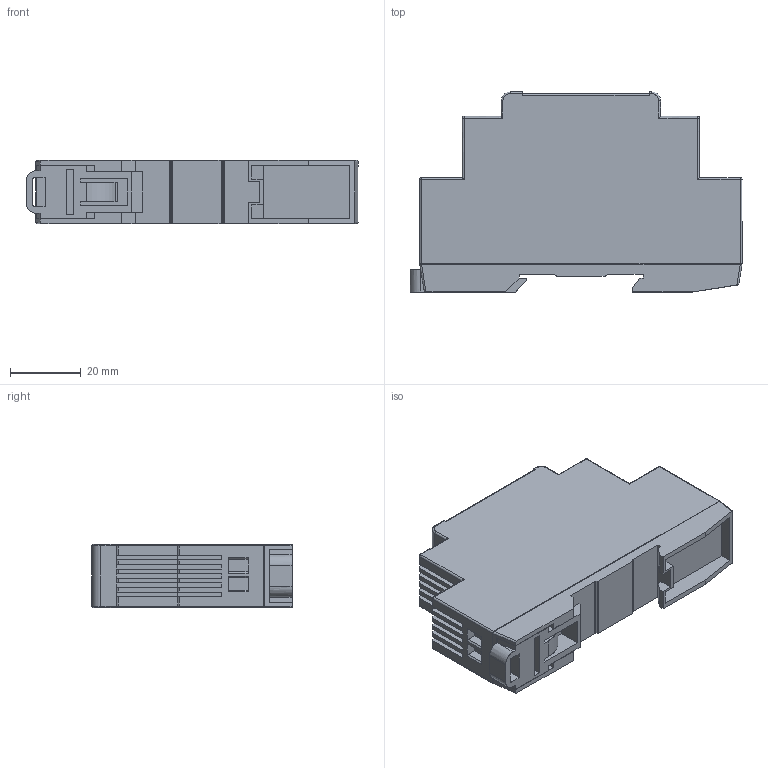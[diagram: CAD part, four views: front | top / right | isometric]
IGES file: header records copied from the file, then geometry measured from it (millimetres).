
Start section: SolidWorks IGES file using analytic representation for surfaces
Global section: file name: C:\Users\ksmith.XPNA\Desktop\DDC15\DDC15.IGS; native system: SolidWorks 2016; preprocessor: SolidWorks 2016; author: ksmith; date: 160317.084256; units: inch
Bounding box: 93.75 x 56.5 x 18 mm (x, y, z)
Surface area: 17895.3 mm2 (no closed solid volume)
Topology: 0 solids, 0 shells, 307 faces, 2353 edges, 2353 vertices
Faces by surface type: bspline 233, revolution 74
